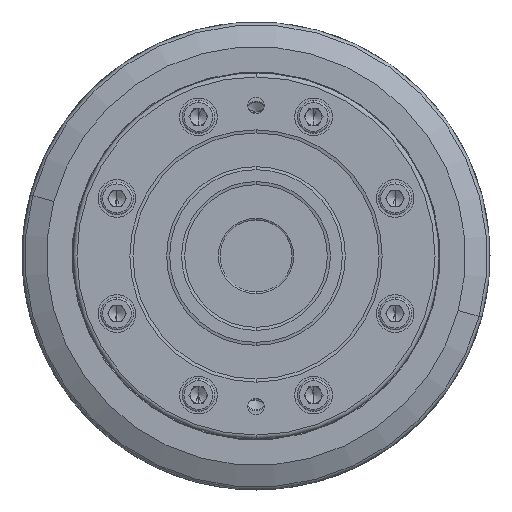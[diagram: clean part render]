
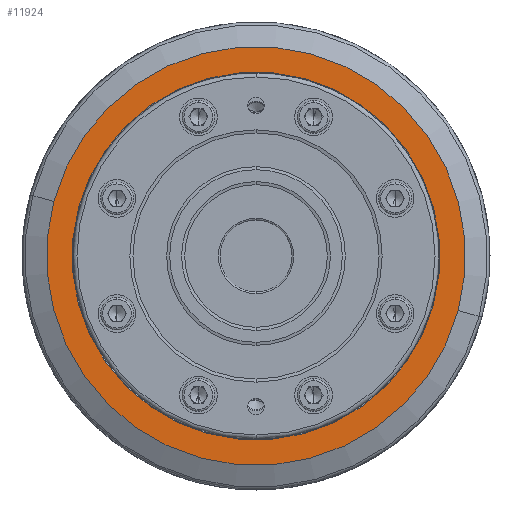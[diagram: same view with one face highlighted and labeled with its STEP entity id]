
A CAD part, left-side view. The second image highlights one B-rep face of the part: STEP entity #11924.
In plain terms, the highlighted planar face has unit normal (-1, 0, 0) as drawn and (1, 0, 0) by its records, which use the part's own axes.
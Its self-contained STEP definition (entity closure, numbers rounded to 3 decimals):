
#1837 = DIRECTION ( 'NONE',  ( 1., 0., 0. ) ) ;
#4643 = CARTESIAN_POINT ( 'NONE',  ( 0., 0., -64. ) ) ;
#4664 = FACE_OUTER_BOUND ( 'NONE', #32401, .T. ) ;
#4686 = CIRCLE ( 'NONE', #6766, 56.2 ) ;
#4823 = DIRECTION ( 'NONE',  ( 1., 0., 0. ) ) ;
#6693 = VERTEX_POINT ( 'NONE', #11542 ) ;
#6766 = AXIS2_PLACEMENT_3D ( 'NONE', #13101, #31197, #15717 ) ;
#7622 = ORIENTED_EDGE ( 'NONE', *, *, #8263, .T. ) ;
#8032 = ORIENTED_EDGE ( 'NONE', *, *, #11133, .T. ) ;
#8263 = EDGE_CURVE ( 'NONE', #18623, #10985, #17715, .T. ) ;
#8293 = DIRECTION ( 'NONE',  ( -1., 0., 0. ) ) ;
#8943 = DIRECTION ( 'NONE',  ( 0., 0., -1. ) ) ;
#9449 = CARTESIAN_POINT ( 'NONE',  ( 0., 0., -56.2 ) ) ;
#10817 = ORIENTED_EDGE ( 'NONE', *, *, #24065, .T. ) ;
#10985 = VERTEX_POINT ( 'NONE', #12552 ) ;
#11133 = EDGE_CURVE ( 'NONE', #6693, #16380, #4686, .T. ) ;
#11542 = CARTESIAN_POINT ( 'NONE',  ( 0., 0., 56.2 ) ) ;
#11924 = ADVANCED_FACE ( 'NONE', ( #15954, #4664 ), #26907, .T. ) ;
#12042 = EDGE_LOOP ( 'NONE', ( #30133, #8032 ) ) ;
#12552 = CARTESIAN_POINT ( 'NONE',  ( 0., 0., 64. ) ) ;
#12636 = CIRCLE ( 'NONE', #18634, 56.2 ) ;
#13101 = CARTESIAN_POINT ( 'NONE',  ( 0., 0., 0. ) ) ;
#15717 = DIRECTION ( 'NONE',  ( 0., 0., -1. ) ) ;
#15954 = FACE_BOUND ( 'NONE', #12042, .T. ) ;
#16380 = VERTEX_POINT ( 'NONE', #9449 ) ;
#16612 = CARTESIAN_POINT ( 'NONE',  ( 0., 56., 0. ) ) ;
#17271 = CARTESIAN_POINT ( 'NONE',  ( 0., 0., 0. ) ) ;
#17715 = CIRCLE ( 'NONE', #19081, 64. ) ;
#18229 = AXIS2_PLACEMENT_3D ( 'NONE', #20254, #4823, #22856 ) ;
#18623 = VERTEX_POINT ( 'NONE', #4643 ) ;
#18634 = AXIS2_PLACEMENT_3D ( 'NONE', #23717, #8293, #26345 ) ;
#19081 = AXIS2_PLACEMENT_3D ( 'NONE', #17271, #1837, #19847 ) ;
#19293 = AXIS2_PLACEMENT_3D ( 'NONE', #16612, #24389, #8943 ) ;
#19847 = DIRECTION ( 'NONE',  ( 0., 0., -1. ) ) ;
#20254 = CARTESIAN_POINT ( 'NONE',  ( 0., 0., 0. ) ) ;
#22090 = EDGE_CURVE ( 'NONE', #16380, #6693, #12636, .T. ) ;
#22856 = DIRECTION ( 'NONE',  ( 0., 0., -1. ) ) ;
#23717 = CARTESIAN_POINT ( 'NONE',  ( 0., 0., 0. ) ) ;
#24065 = EDGE_CURVE ( 'NONE', #10985, #18623, #28759, .T. ) ;
#24389 = DIRECTION ( 'NONE',  ( 1., 0., 0. ) ) ;
#26345 = DIRECTION ( 'NONE',  ( 0., 0., -1. ) ) ;
#26907 = PLANE ( 'NONE',  #19293 ) ;
#28759 = CIRCLE ( 'NONE', #18229, 64. ) ;
#30133 = ORIENTED_EDGE ( 'NONE', *, *, #22090, .T. ) ;
#31197 = DIRECTION ( 'NONE',  ( -1., 0., 0. ) ) ;
#32401 = EDGE_LOOP ( 'NONE', ( #10817, #7622 ) ) ;
